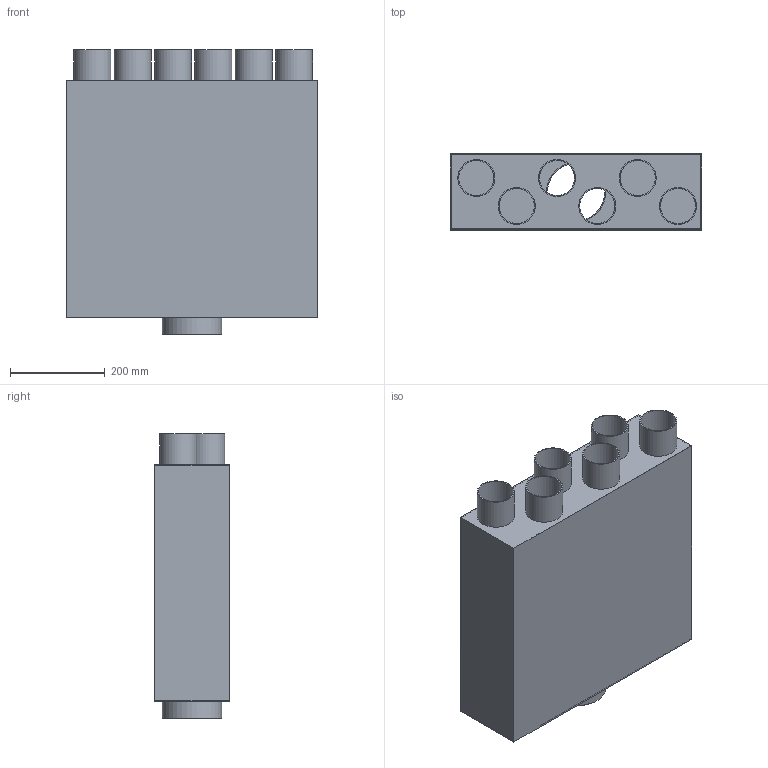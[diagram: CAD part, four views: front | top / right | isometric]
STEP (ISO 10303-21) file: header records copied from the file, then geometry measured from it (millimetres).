
FILE_DESCRIPTION(/* description */ (''),/* implementation_level */ '2;1');
FILE_NAME(/* name */ 'Z:\Output\FRS-FVK_6-75_125-03845-001.stp',/* time_stamp */ '2017-09-08T14:24:20+02:00',/* author */ ('Engineering1'),/* organization */ (''),/* preprocessor_version */ 'ST-DEVELOPER v16.5',/* originating_system */ 'Autodesk Inventor 2017',/* authorisation */ '');
FILE_SCHEMA (('AUTOMOTIVE_DESIGN { 1 0 10303 214 3 1 1 }'));
Length unit declared in the file: millimetre
Products named in the file (1): FRS-VK_75-V
Bounding box: 530 x 160 x 599.5 mm (x, y, z)
Volume: 1837466 mm3; surface area: 1841048 mm2
Topology: 1 solids, 1 shells, 33 faces, 66 edges, 44 vertices
Faces by surface type: plane 19, cylinder 14
Full cylindrical faces by diameter (mm): 74 x6, 78 x6, 121 x1, 125 x1
Entity records: 852 total; most frequent: DIRECTION 148, CARTESIAN_POINT 130, ORIENTED_EDGE 104, EDGE_LOOP 68, AXIS2_PLACEMENT_3D 62, EDGE_CURVE 52, VERTEX_POINT 44, FACE_BOUND 35
